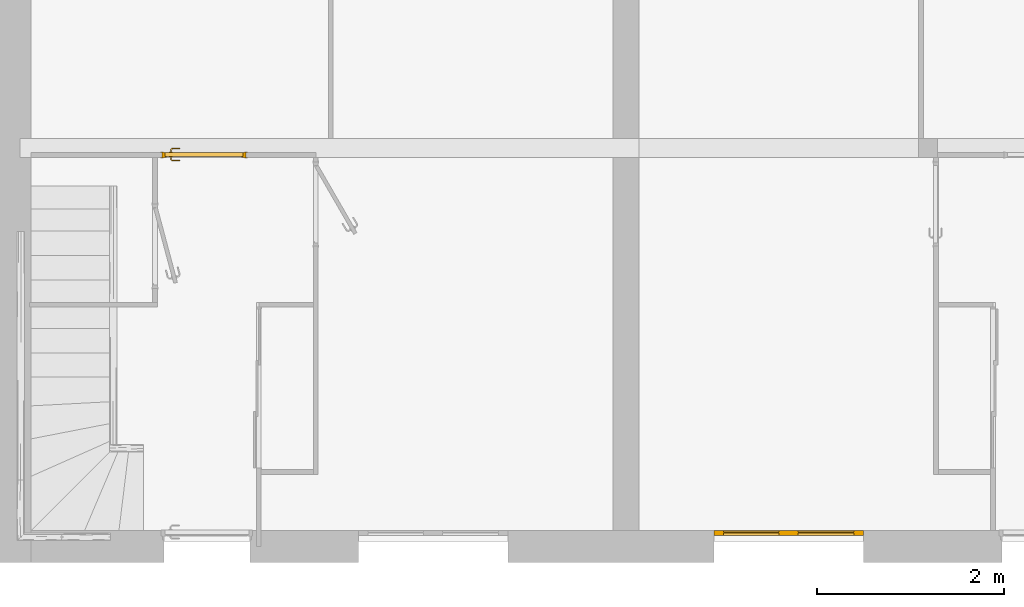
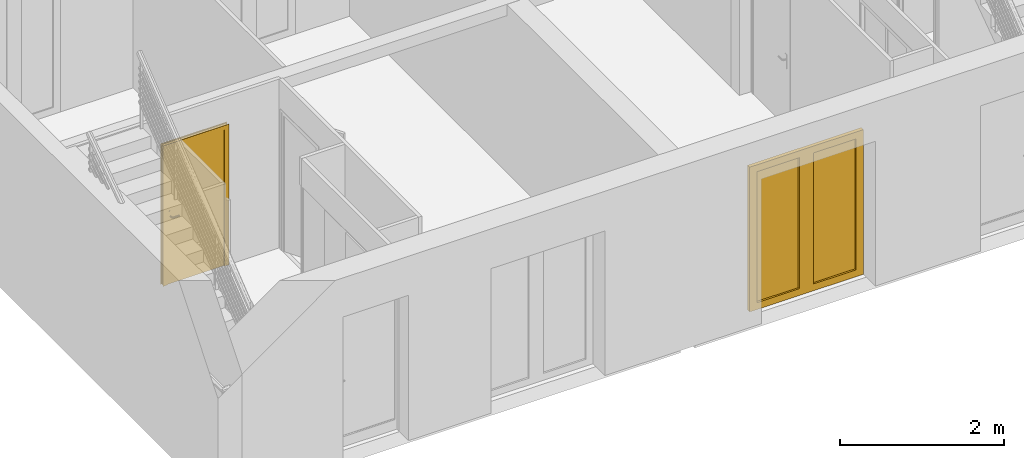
# One storey, part 8 of 13: 2 doors.
"""IFC2X3 building model written with IfcOpenShell, lengths in millimetres."""

from ifc_helpers import new_model, entity, si_unit, converted_unit, direction, frame, origin, origin_with_axes, place, context, project, spatial, faceted_brep, element, save


model = new_model("IFC2X3")

# Units and contexts
model_context = context("Model", 3, precision=1e-05, world=origin(), true_north=direction((0.0, 1.0, 0.0)))
ifc_project = project(units=[si_unit("LENGTHUNIT", "METRE", prefix="MILLI"), si_unit("AREAUNIT", "SQUARE_METRE"), si_unit("VOLUMEUNIT", "CUBIC_METRE"), converted_unit("PLANEANGLEUNIT", "DEGREE", entity("IfcPlaneAngleMeasure", 0.01745), si_unit("PLANEANGLEUNIT", "RADIAN"), dimensions=[0, 0, 0, 0, 0, 0, 0]), si_unit("SOLIDANGLEUNIT", "STERADIAN"), si_unit("MASSUNIT", "GRAM"), si_unit("TIMEUNIT", "SECOND"), si_unit("THERMODYNAMICTEMPERATUREUNIT", "DEGREE_CELSIUS"), si_unit("LUMINOUSINTENSITYUNIT", "LUMEN")], contexts=[model_context])

# Site, building, storey
placement = place(None, origin_with_axes())
site_placement = place(placement, frame((11636.08881703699, 2815.7442167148, 4.768371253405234e-06), z_axis=(0.0, 0.0, 1.0), x_axis=(1.0, 0.0, 0.0)))
site = spatial("IfcSite", under=ifc_project, at=site_placement, Name="Surface", CompositionType="ELEMENT")
building_placement = place(placement, origin_with_axes())
building = spatial("IfcBuilding", under=site, at=building_placement, Name="Default Building", CompositionType="ELEMENT")
storey_placement = place(building_placement, origin_with_axes())
storey = spatial("IfcBuildingStorey", under=building, at=storey_placement, Name="Rez de chaussée", CompositionType="ELEMENT", Elevation=0.0)

# Doors
door_1_placement = place(storey_placement, frame((11636.08881703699, 2815.7442167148, 4.768371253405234e-06), z_axis=(0.0, 0.0, 1.0), x_axis=(1.0, 0.0, 0.0)))
element("IfcDoor", 1, at=door_1_placement, inside=storey, Name="IfcDoor - Int. Simple:PP (0.83m x 2.04m)", context=model_context, shape_type="Brep", body=[
    faceted_brep([(-9881.088821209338, 1569.255782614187, 4.291534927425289e-05), (-9911.08882240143, 1564.255783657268, 4.291534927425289e-05), (-9911.08882240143, 1569.255782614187, 4.291534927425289e-05), (-9881.088821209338, 1564.255783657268, 4.291534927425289e-05), (-9011.088816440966, 1569.255782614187, 4.291534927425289e-05), (-8981.088815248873, 1564.255783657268, 4.291534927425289e-05), (-9011.088816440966, 1564.255783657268, 4.291534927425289e-05), (-8981.088815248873, 1569.255782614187, 4.291534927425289e-05), (-9881.088821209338, 1569.255782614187, 2059.99998569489), (-9011.088816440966, 1564.255783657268, 2059.99998569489), (-9881.088821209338, 1564.255783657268, 2059.99998569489), (-9011.088816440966, 1569.255782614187, 2059.99998569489), (-9911.08882240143, 1564.255783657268, 2089.999957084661), (-8981.088815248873, 1569.255782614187, 2089.999957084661), (-9911.08882240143, 1569.255782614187, 2089.999957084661), (-8981.088815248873, 1564.255783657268, 2089.999957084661), (-9881.088821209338, 1514.25578291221, 2059.99998569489), (-9011.088816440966, 1509.255783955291, 2059.99998569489), (-9881.088821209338, 1509.255783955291, 2059.99998569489), (-9011.088816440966, 1514.25578291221, 2059.99998569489), (-9911.08882240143, 1509.255783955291, 2089.999957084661), (-8981.088815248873, 1514.25578291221, 2089.999957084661), (-9911.08882240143, 1514.25578291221, 2089.999957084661), (-8981.088815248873, 1509.255783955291, 2089.999957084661), (-8981.088815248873, 1514.25578291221, 4.291534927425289e-05), (-8981.088815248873, 1509.255783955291, 4.291534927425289e-05), (-9011.088816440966, 1509.255783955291, 4.291534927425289e-05), (-9011.088816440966, 1514.25578291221, 4.291534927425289e-05), (-9881.088821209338, 1514.25578291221, 4.291534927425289e-05), (-9881.088821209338, 1509.255783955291, 4.291534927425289e-05), (-9911.08882240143, 1509.255783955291, 4.291534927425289e-05), (-9911.08882240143, 1514.25578291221, 4.291534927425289e-05), (-9861.088810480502, 1564.255783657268, 2040.000004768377), (-9031.088827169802, 1524.255783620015, 2040.000004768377), (-9861.088810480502, 1524.255783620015, 2040.000004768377), (-9031.088827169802, 1564.255783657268, 2040.000004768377), (-9846.088824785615, 1524.255783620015, 2025.000019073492), (-9046.088812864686, 1514.25578291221, 2025.000019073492), (-9846.088824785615, 1514.25578291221, 2025.000019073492), (-9046.088812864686, 1524.255783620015, 2025.000019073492), (-9896.088806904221, 1514.25578291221, 2074.999971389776), (-8996.08883074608, 1564.255783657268, 2074.999971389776), (-9896.088806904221, 1564.255783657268, 2074.999971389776), (-8996.08883074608, 1514.25578291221, 2074.999971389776), (-9031.088827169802, 1524.255783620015, 4.291534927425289e-05), (-9031.088827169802, 1564.255783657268, 4.291534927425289e-05), (-9046.088812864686, 1514.25578291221, 4.291534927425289e-05), (-9046.088812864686, 1524.255783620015, 4.291534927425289e-05), (-8996.08883074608, 1514.25578291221, 4.291534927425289e-05), (-8996.08883074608, 1564.255783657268, 4.291534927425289e-05), (-9861.088810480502, 1564.255783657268, 4.291534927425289e-05), (-9896.088806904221, 1564.255783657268, 4.291534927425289e-05), (-9861.088810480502, 1524.255783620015, 4.291534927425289e-05), (-9846.088824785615, 1524.255783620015, 4.291534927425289e-05), (-9846.088824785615, 1514.25578291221, 4.291534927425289e-05), (-9896.088806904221, 1514.25578291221, 4.291534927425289e-05), (-9861.088810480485, 1524.255783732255, 2039.999980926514), (-9861.088810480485, 1564.255782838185, 1.907348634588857e-05), (-9861.088810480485, 1524.255783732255, 1.907348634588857e-05), (-9861.088810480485, 1564.255782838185, 2039.999980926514), (-9031.088827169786, 1564.255782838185, 1.907348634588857e-05), (-9031.088827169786, 1524.255783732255, 1.907348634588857e-05), (-9031.088827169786, 1564.255782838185, 2039.999980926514), (-9031.088827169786, 1524.255783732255, 2039.999980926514), (-9785.249911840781, 1481.31059239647, 992.2195583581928), (-9743.146474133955, 1479.285301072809, 992.1213131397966), (-9786.927724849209, 1477.260002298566, 992.2195583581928), (-9748.643614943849, 1473.285296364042, 992.99999922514), (-9742.323298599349, 1485.285298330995, 992.99999922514), (-9701.043036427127, 1481.31059239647, 992.2195583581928), (-9701.043036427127, 1477.260002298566, 992.2195583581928), (-9701.043036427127, 1485.285298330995, 992.99999922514), (-9783.603536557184, 1485.285298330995, 992.99999922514), (-9788.57410013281, 1473.285296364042, 992.99999922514), (-9701.043036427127, 1473.285296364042, 992.99999922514), (-9788.57410013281, 1473.285296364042, 1007.000001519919), (-9748.643613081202, 1473.285296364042, 1007.000001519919), (-9701.043036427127, 1473.285296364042, 1007.000001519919), (-9701.043036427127, 1481.31059239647, 1007.780442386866), (-9743.146474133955, 1479.285301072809, 1007.878685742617), (-9701.043036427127, 1477.260002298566, 1007.780442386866), (-9742.323285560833, 1485.285298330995, 1007.000001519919), (-9785.249911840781, 1481.31059239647, 1007.780442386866), (-9786.927724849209, 1477.260002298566, 1007.780442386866), (-9701.043036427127, 1485.285298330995, 1007.000001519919), (-9783.603536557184, 1485.285298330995, 1007.000001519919), (-9799.063519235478, 1495.124203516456, 992.2195583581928), (-9795.088817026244, 1496.77057693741, 992.99999922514), (-9807.088818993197, 1491.800015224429, 992.99999922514), (-9803.114116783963, 1493.446392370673, 992.2195583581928), (-9807.088818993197, 1491.800015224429, 1007.000001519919), (-9803.114116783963, 1493.446392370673, 1007.780442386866), (-9795.088817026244, 1496.77057693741, 1007.000001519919), (-9799.063519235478, 1495.124203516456, 1007.780442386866), (-9799.063519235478, 1519.255782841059, 992.2195583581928), (-9795.088817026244, 1519.255782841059, 992.99999922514), (-9803.114116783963, 1519.255782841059, 992.2195583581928), (-9807.088818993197, 1519.255782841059, 992.99999922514), (-9807.088818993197, 1519.255782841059, 1007.000001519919), (-9803.114116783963, 1519.255782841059, 1007.780442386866), (-9799.063519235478, 1519.255782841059, 1007.780442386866), (-9795.088817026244, 1519.255782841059, 1007.000001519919), (-9701.07017889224, 1615.283945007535, 992.99999922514), (-9748.781121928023, 1615.283945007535, 1007.000001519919), (-9701.07017889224, 1615.283945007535, 1007.000001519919), (-9788.711608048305, 1615.283945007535, 1007.000001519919), (-9748.781129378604, 1615.283945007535, 992.99999922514), (-9788.711608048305, 1615.283945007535, 992.99999922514), (-9701.07017889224, 1607.258648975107, 992.2195583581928), (-9743.22879932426, 1609.283947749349, 992.1213131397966), (-9701.07017889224, 1611.309239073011, 992.2195583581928), (-9742.405612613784, 1603.283943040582, 992.99999922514), (-9785.387421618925, 1607.258648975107, 992.2195583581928), (-9787.065232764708, 1611.309239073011, 992.2195583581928), (-9701.07017889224, 1603.283943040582, 992.99999922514), (-9783.741046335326, 1603.283943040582, 992.99999922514), (-9701.07017889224, 1603.283943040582, 1007.000001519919), (-9742.405612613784, 1603.283943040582, 1007.000001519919), (-9783.741046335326, 1603.283943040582, 1007.000001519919), (-9785.387421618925, 1607.258648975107, 1007.780442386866), (-9743.22879932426, 1609.283940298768, 1007.878685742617), (-9787.065232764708, 1611.309239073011, 1007.780442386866), (-9701.07017889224, 1607.258648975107, 1007.780442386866), (-9701.07017889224, 1611.309239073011, 1007.780442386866), (-9807.088818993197, 1596.906734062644, 992.99999922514), (-9807.088818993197, 1596.906734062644, 1007.000001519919), (-9803.114116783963, 1595.260360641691, 992.2195583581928), (-9795.088817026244, 1591.936172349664, 992.99999922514), (-9799.063519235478, 1593.582545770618, 992.2195583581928), (-9795.088817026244, 1591.936172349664, 1007.000001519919), (-9799.063519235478, 1593.582545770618, 1007.780442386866), (-9803.114116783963, 1595.260360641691, 1007.780442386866), (-9807.088818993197, 1569.255783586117, 992.99999922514), (-9807.088818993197, 1569.255783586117, 1007.000001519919), (-9803.114116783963, 1569.255783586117, 992.2195583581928), (-9799.063519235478, 1569.255783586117, 992.2195583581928), (-9795.088817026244, 1569.255783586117, 992.99999922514), (-9795.088817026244, 1569.255783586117, 1007.000001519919), (-9799.063519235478, 1569.255783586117, 1007.780442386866), (-9803.114116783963, 1569.255783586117, 1007.780442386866), (-9781.088818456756, 1519.255782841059, 870.0000032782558), (-9781.088818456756, 1524.255783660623, 1079.999996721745), (-9781.088818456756, 1519.255782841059, 1079.999996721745), (-9781.088818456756, 1524.255783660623, 870.0000032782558), (-9790.73605745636, 1524.255783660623, 866.0039812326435), (-9790.73605745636, 1519.255782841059, 866.0039812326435), (-9801.08881800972, 1519.255782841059, 864.6410167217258), (-9801.08881800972, 1524.255783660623, 864.6410167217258), (-9811.441582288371, 1519.255782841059, 866.0039812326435), (-9811.441582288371, 1524.255783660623, 866.0039812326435), (-9821.088817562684, 1519.255782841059, 870.0000032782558), (-9821.088817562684, 1524.255783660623, 870.0000032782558), (-9821.088817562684, 1524.255783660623, 1079.999996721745), (-9821.088817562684, 1519.255782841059, 1079.999996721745), (-9811.441582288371, 1524.255783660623, 1083.996018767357), (-9811.441582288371, 1519.255782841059, 1083.996018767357), (-9801.08881800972, 1519.255782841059, 1085.358983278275), (-9801.08881800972, 1524.255783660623, 1085.358983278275), (-9790.73605745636, 1519.255782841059, 1083.996018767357), (-9790.73605745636, 1524.255783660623, 1083.996018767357), (-9821.088817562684, 1564.255782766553, 870.0000032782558), (-9821.088817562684, 1569.255783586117, 1079.999996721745), (-9821.088817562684, 1569.255783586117, 870.0000032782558), (-9821.088817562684, 1564.255782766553, 1079.999996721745), (-9811.441582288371, 1569.255783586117, 1083.996018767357), (-9811.441582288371, 1564.255782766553, 1083.996018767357), (-9801.08881800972, 1564.255782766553, 1085.358983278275), (-9801.08881800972, 1569.255783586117, 1085.358983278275), (-9790.73605745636, 1564.255782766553, 1083.996018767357), (-9790.73605745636, 1569.255783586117, 1083.996018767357), (-9781.088818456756, 1564.255782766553, 1079.999996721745), (-9781.088818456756, 1569.255783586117, 1079.999996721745), (-9781.088818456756, 1564.255782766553, 870.0000032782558), (-9781.088818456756, 1569.255783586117, 870.0000032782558), (-9790.73605745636, 1569.255783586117, 866.0039812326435), (-9790.73605745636, 1564.255782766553, 866.0039812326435), (-9801.08881800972, 1564.255782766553, 864.6410167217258), (-9801.08881800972, 1569.255783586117, 864.6410167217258), (-9811.441582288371, 1564.255782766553, 866.0039812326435), (-9811.441582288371, 1569.255783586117, 866.0039812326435)], [[[0, 1, 2]], [[0, 3, 1]], [[4, 5, 6]], [[4, 7, 5]], [[8, 9, 10]], [[8, 11, 9]], [[12, 13, 14]], [[12, 15, 13]], [[15, 7, 13]], [[15, 5, 7]], [[11, 6, 9]], [[11, 4, 6]], [[0, 10, 3]], [[0, 8, 10]], [[12, 10, 15]], [[1, 10, 12]], [[10, 1, 3]], [[9, 15, 10]], [[6, 15, 9]], [[15, 6, 5]], [[1, 14, 2]], [[1, 12, 14]], [[13, 11, 14]], [[7, 11, 13]], [[11, 7, 4]], [[8, 14, 11]], [[0, 14, 8]], [[14, 0, 2]], [[16, 17, 18]], [[16, 19, 17]], [[20, 21, 22]], [[20, 23, 21]], [[23, 24, 21]], [[23, 25, 24]], [[19, 26, 17]], [[19, 27, 26]], [[27, 25, 26]], [[27, 24, 25]], [[28, 18, 29]], [[28, 16, 18]], [[20, 18, 23]], [[30, 18, 20]], [[18, 30, 29]], [[17, 23, 18]], [[26, 23, 17]], [[23, 26, 25]], [[30, 22, 31]], [[30, 20, 22]], [[21, 19, 22]], [[24, 19, 21]], [[19, 24, 27]], [[16, 22, 19]], [[28, 22, 16]], [[22, 28, 31]], [[28, 30, 31]], [[28, 29, 30]], [[32, 33, 34]], [[32, 35, 33]], [[36, 37, 38]], [[36, 39, 37]], [[40, 41, 42]], [[40, 43, 41]], [[35, 44, 33]], [[35, 45, 44]], [[39, 46, 37]], [[39, 47, 46]], [[47, 48, 46]], [[44, 48, 47]], [[45, 48, 44]], [[48, 45, 49]], [[43, 49, 41]], [[43, 48, 49]], [[41, 35, 42]], [[49, 35, 41]], [[35, 49, 45]], [[32, 42, 35]], [[50, 42, 32]], [[42, 50, 51]], [[50, 34, 52]], [[50, 32, 34]], [[33, 39, 34]], [[44, 39, 33]], [[39, 44, 47]], [[36, 34, 39]], [[53, 34, 36]], [[34, 53, 52]], [[53, 38, 54]], [[53, 36, 38]], [[40, 38, 43]], [[55, 38, 40]], [[38, 55, 54]], [[37, 43, 38]], [[46, 43, 37]], [[43, 46, 48]], [[55, 42, 51]], [[55, 40, 42]], [[54, 52, 53]], [[55, 52, 54]], [[55, 50, 52]], [[50, 55, 51]], [[56, 57, 58]], [[56, 59, 57]], [[58, 60, 61]], [[58, 57, 60]], [[61, 62, 63]], [[61, 60, 62]], [[63, 59, 56]], [[63, 62, 59]], [[59, 60, 57]], [[59, 62, 60]], [[56, 61, 63]], [[56, 58, 61]], [[64, 65, 66]], [[65, 67, 66]], [[65, 68, 69]], [[65, 69, 70]], [[71, 69, 68]], [[68, 64, 72]], [[64, 68, 65]], [[67, 73, 66]], [[67, 70, 74]], [[65, 70, 67]], [[67, 75, 73]], [[74, 75, 67]], [[74, 76, 75]], [[76, 74, 77]], [[78, 79, 80]], [[79, 81, 82]], [[79, 82, 83]], [[79, 83, 76]], [[76, 83, 75]], [[80, 76, 77]], [[78, 84, 81]], [[82, 81, 85]], [[80, 79, 76]], [[79, 78, 81]], [[84, 72, 85]], [[84, 68, 72]], [[68, 84, 71]], [[70, 77, 74]], [[70, 80, 77]], [[69, 80, 70]], [[69, 78, 80]], [[69, 84, 78]], [[84, 69, 71]], [[86, 72, 64]], [[86, 87, 72]], [[88, 66, 73]], [[88, 89, 66]], [[73, 90, 88]], [[73, 75, 90]], [[90, 83, 91]], [[90, 75, 83]], [[92, 82, 85]], [[92, 93, 82]], [[85, 87, 92]], [[85, 72, 87]], [[94, 87, 86]], [[94, 95, 87]], [[66, 86, 64]], [[89, 86, 66]], [[89, 94, 86]], [[94, 89, 96]], [[97, 89, 88]], [[97, 96, 89]], [[90, 97, 88]], [[90, 98, 97]], [[98, 91, 99]], [[98, 90, 91]], [[91, 93, 99]], [[83, 93, 91]], [[93, 83, 82]], [[99, 93, 100]], [[100, 92, 101]], [[100, 93, 92]], [[92, 95, 101]], [[92, 87, 95]], [[98, 96, 97]], [[99, 96, 98]], [[99, 94, 96]], [[100, 94, 99]], [[100, 95, 94]], [[95, 100, 101]], [[102, 103, 104]], [[102, 105, 103]], [[106, 105, 102]], [[105, 106, 107]], [[108, 109, 110]], [[109, 111, 112]], [[109, 112, 113]], [[109, 113, 106]], [[106, 113, 107]], [[110, 106, 102]], [[108, 114, 111]], [[112, 111, 115]], [[110, 109, 106]], [[109, 108, 111]], [[116, 115, 114]], [[117, 115, 116]], [[115, 117, 118]], [[119, 120, 121]], [[120, 103, 121]], [[120, 117, 122]], [[120, 122, 123]], [[116, 122, 117]], [[117, 119, 118]], [[119, 117, 120]], [[103, 105, 121]], [[103, 123, 104]], [[120, 123, 103]], [[114, 122, 116]], [[108, 122, 114]], [[108, 123, 122]], [[110, 123, 108]], [[110, 104, 123]], [[104, 110, 102]], [[105, 124, 125]], [[105, 107, 124]], [[126, 107, 113]], [[126, 124, 107]], [[127, 112, 115]], [[127, 128, 112]], [[115, 129, 127]], [[115, 118, 129]], [[130, 118, 119]], [[130, 129, 118]], [[125, 121, 105]], [[125, 131, 121]], [[125, 132, 133]], [[125, 124, 132]], [[132, 126, 134]], [[132, 124, 126]], [[126, 128, 134]], [[113, 128, 126]], [[128, 113, 112]], [[134, 128, 135]], [[135, 127, 136]], [[135, 128, 127]], [[127, 137, 136]], [[127, 129, 137]], [[138, 129, 130]], [[138, 137, 129]], [[121, 130, 119]], [[131, 130, 121]], [[131, 138, 130]], [[138, 131, 139]], [[133, 131, 125]], [[133, 139, 131]], [[134, 133, 132]], [[134, 139, 133]], [[135, 139, 134]], [[135, 138, 139]], [[136, 138, 135]], [[138, 136, 137]], [[140, 141, 142]], [[140, 143, 141]], [[144, 140, 145]], [[144, 143, 140]], [[144, 146, 147]], [[144, 145, 146]], [[147, 148, 149]], [[147, 146, 148]], [[149, 150, 151]], [[149, 148, 150]], [[150, 152, 151]], [[150, 153, 152]], [[154, 153, 155]], [[154, 152, 153]], [[154, 156, 157]], [[154, 155, 156]], [[157, 158, 159]], [[157, 156, 158]], [[159, 142, 141]], [[159, 158, 142]], [[146, 150, 148]], [[146, 153, 150]], [[145, 153, 146]], [[145, 155, 153]], [[140, 155, 145]], [[140, 156, 155]], [[140, 158, 156]], [[158, 140, 142]], [[159, 154, 157]], [[141, 154, 159]], [[141, 152, 154]], [[141, 151, 152]], [[143, 151, 141]], [[144, 151, 143]], [[144, 149, 151]], [[149, 144, 147]], [[160, 161, 162]], [[160, 163, 161]], [[164, 163, 165]], [[164, 161, 163]], [[164, 166, 167]], [[164, 165, 166]], [[167, 168, 169]], [[167, 166, 168]], [[169, 170, 171]], [[169, 168, 170]], [[172, 171, 170]], [[172, 173, 171]], [[174, 172, 175]], [[174, 173, 172]], [[174, 176, 177]], [[174, 175, 176]], [[177, 178, 179]], [[177, 176, 178]], [[179, 160, 162]], [[179, 178, 160]], [[175, 178, 176]], [[172, 178, 175]], [[172, 160, 178]], [[170, 160, 172]], [[170, 163, 160]], [[168, 163, 170]], [[168, 165, 163]], [[165, 168, 166]], [[169, 164, 167]], [[171, 164, 169]], [[171, 161, 164]], [[171, 162, 161]], [[173, 162, 171]], [[174, 162, 173]], [[174, 179, 162]], [[179, 174, 177]]]),
])
door_2_placement = place(storey_placement, frame((11636.08881703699, 2815.7442167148, 4.768371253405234e-06), z_axis=(0.0, 0.0, 1.0), x_axis=(1.0, 0.0, 0.0)))
element("IfcDoor", 2, at=door_2_placement, inside=storey, Name="IfcDoor - Double-Glass 1_no trim:PF 1.60 x 2.15", context=model_context, shape_type="Brep", body=[
    faceted_brep([(-3297.688817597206, -2475.744217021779, 2048.399996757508), (-3094.488820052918, -2475.744217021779, 101.6000032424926), (-3297.688817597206, -2475.744217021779, 101.6000032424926), (-3094.488820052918, -2475.744217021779, 2048.399996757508), (-3996.088830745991, -2475.744217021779, -4.768371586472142e-05), (-2396.088806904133, -2475.744217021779, -4.768371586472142e-05), (-3894.488839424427, -2475.744217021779, 101.6000032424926), (-3894.488839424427, -2475.744217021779, 2048.399996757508), (-3996.088830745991, -2475.744217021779, 2150.000047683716), (-2497.688798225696, -2475.744217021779, 101.6000032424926), (-2497.688798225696, -2475.744217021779, 2048.399996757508), (-2396.088806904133, -2475.744217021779, 2150.000047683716), (-3094.488820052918, -2526.544216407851, 2048.399996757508), (-3297.688817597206, -2526.544216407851, 101.6000032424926), (-3094.488820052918, -2526.544216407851, 101.6000032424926), (-3297.688817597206, -2526.544216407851, 2048.399996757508), (-2396.088806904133, -2526.544216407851, -4.768371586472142e-05), (-2497.688798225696, -2526.544216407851, 101.6000032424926), (-3996.088830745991, -2526.544216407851, -4.768371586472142e-05), (-2497.688798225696, -2526.544216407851, 2048.399996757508), (-2396.088806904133, -2526.544216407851, 2150.000047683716), (-3894.488839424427, -2526.544216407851, 2048.399996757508), (-3894.488839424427, -2526.544216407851, 101.6000032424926), (-3996.088830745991, -2526.544216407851, 2150.000047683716), (-3297.688817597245, -2501.144216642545, 2048.399996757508), (-3894.488839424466, -2494.000466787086, 2048.399996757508), (-3894.488839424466, -2501.144216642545, 2048.399996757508), (-3297.688817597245, -2494.000466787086, 2048.399996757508), (-3894.488839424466, -2501.144216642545, 101.6000032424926), (-3297.688817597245, -2494.000466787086, 101.6000032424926), (-3297.688817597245, -2501.144216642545, 101.6000032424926), (-3894.488839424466, -2494.000466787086, 101.6000032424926), (-2497.688798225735, -2501.144216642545, 2048.399996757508), (-3094.488820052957, -2494.000466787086, 2048.399996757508), (-3094.488820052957, -2501.144216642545, 2048.399996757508), (-2497.688798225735, -2494.000466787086, 2048.399996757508), (-3094.488820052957, -2501.144216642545, 101.6000032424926), (-2497.688798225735, -2494.000466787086, 101.6000032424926), (-2497.688798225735, -2501.144216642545, 101.6000032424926), (-3094.488820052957, -2494.000466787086, 101.6000032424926)], [[[0, 1, 2]], [[0, 3, 1]], [[4, 2, 5]], [[4, 6, 2]], [[4, 7, 6]], [[7, 8, 3]], [[8, 7, 4]], [[9, 5, 2]], [[10, 5, 9]], [[8, 10, 3]], [[10, 11, 5]], [[11, 10, 8]], [[12, 13, 14]], [[13, 12, 15]], [[16, 17, 18]], [[16, 19, 17]], [[19, 20, 21]], [[20, 19, 16]], [[14, 18, 17]], [[13, 18, 14]], [[22, 18, 13]], [[21, 18, 22]], [[21, 23, 18]], [[23, 21, 20]], [[3, 19, 12]], [[3, 10, 19]], [[1, 12, 14]], [[1, 3, 12]], [[9, 14, 17]], [[9, 1, 14]], [[10, 17, 19]], [[10, 9, 17]], [[7, 15, 21]], [[7, 0, 15]], [[6, 21, 22]], [[6, 7, 21]], [[2, 22, 13]], [[2, 6, 22]], [[0, 13, 15]], [[0, 2, 13]], [[5, 20, 16]], [[5, 11, 20]], [[4, 16, 18]], [[4, 5, 16]], [[8, 18, 23]], [[8, 4, 18]], [[11, 23, 20]], [[11, 8, 23]], [[24, 25, 26]], [[24, 27, 25]], [[28, 29, 30]], [[28, 31, 29]], [[27, 30, 29]], [[27, 24, 30]], [[25, 29, 31]], [[25, 27, 29]], [[26, 31, 28]], [[26, 25, 31]], [[24, 28, 30]], [[24, 26, 28]], [[32, 33, 34]], [[32, 35, 33]], [[36, 37, 38]], [[36, 39, 37]], [[35, 38, 37]], [[35, 32, 38]], [[33, 37, 39]], [[33, 35, 37]], [[34, 39, 36]], [[34, 33, 39]], [[32, 36, 38]], [[32, 34, 36]]]),
])

save(model, "model.ifc")
